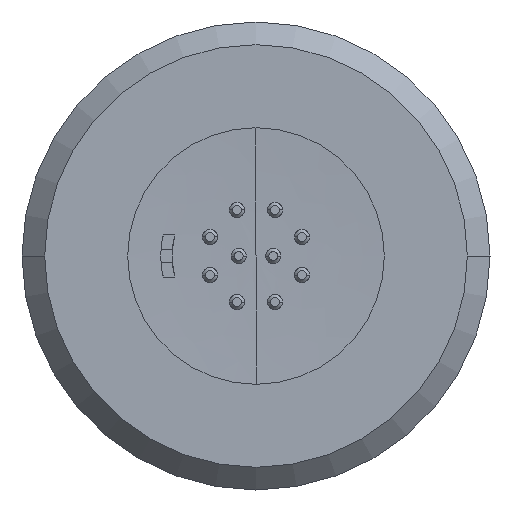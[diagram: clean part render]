
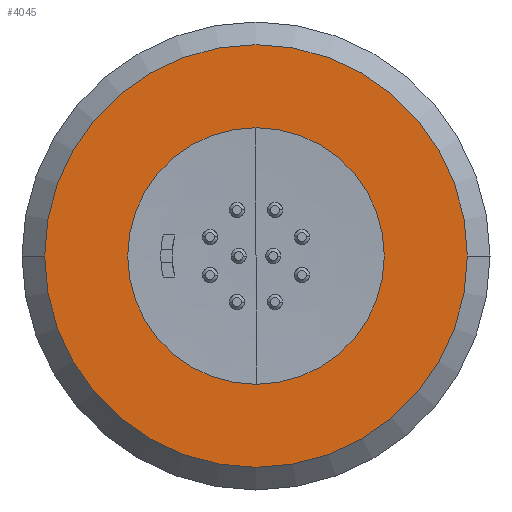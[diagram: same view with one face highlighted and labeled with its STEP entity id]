
A CAD part, left-side view. The second image highlights one B-rep face of the part: STEP entity #4045.
In plain terms, the highlighted planar face has unit normal (-1, 0, 0).
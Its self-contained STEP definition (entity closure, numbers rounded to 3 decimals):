
#522=CARTESIAN_POINT('',(-15.5,0.,0.));
#523=DIRECTION('',(1.,0.,0.));
#524=DIRECTION('',(0.,-1.,0.));
#525=AXIS2_PLACEMENT_3D('',#522,#523,#524);
#527=CARTESIAN_POINT('',(-15.5,0.,0.));
#528=DIRECTION('',(1.,0.,0.));
#529=DIRECTION('',(0.,0.,-1.));
#530=AXIS2_PLACEMENT_3D('',#527,#528,#529);
#532=CARTESIAN_POINT('',(-15.5,0.,0.));
#533=DIRECTION('',(1.,0.,0.));
#534=DIRECTION('',(0.,1.,0.));
#535=AXIS2_PLACEMENT_3D('',#532,#533,#534);
#537=CARTESIAN_POINT('',(-15.5,0.,0.));
#538=DIRECTION('',(1.,0.,0.));
#539=DIRECTION('',(0.,0.,1.));
#540=AXIS2_PLACEMENT_3D('',#537,#538,#539);
#542=CARTESIAN_POINT('',(-15.5,0.,0.));
#543=DIRECTION('',(-1.,0.,0.));
#544=DIRECTION('',(0.,-1.,0.));
#545=AXIS2_PLACEMENT_3D('',#542,#543,#544);
#547=CARTESIAN_POINT('',(-15.5,0.,0.));
#548=DIRECTION('',(-1.,0.,0.));
#549=DIRECTION('',(0.,1.,0.));
#550=AXIS2_PLACEMENT_3D('',#547,#548,#549);
#2979=CARTESIAN_POINT('',(-15.5,0.,7.));
#2980=CARTESIAN_POINT('',(-15.5,-7.,0.));
#2981=VERTEX_POINT('',#2979);
#2982=VERTEX_POINT('',#2980);
#2983=CARTESIAN_POINT('',(-15.5,7.,0.));
#2984=VERTEX_POINT('',#2983);
#2985=CARTESIAN_POINT('',(-15.5,0.,-7.));
#2986=VERTEX_POINT('',#2985);
#2987=CARTESIAN_POINT('',(-15.5,-4.25,0.));
#2988=CARTESIAN_POINT('',(-15.5,4.25,0.));
#2989=VERTEX_POINT('',#2987);
#2990=VERTEX_POINT('',#2988);
#4026=CARTESIAN_POINT('',(-15.5,0.,0.));
#4027=DIRECTION('',(1.,0.,0.));
#4028=DIRECTION('',(0.,-1.,0.));
#4029=AXIS2_PLACEMENT_3D('',#4026,#4027,#4028);
#4030=PLANE('',#4029);
#4032=ORIENTED_EDGE('',*,*,#4031,.T.);
#4034=ORIENTED_EDGE('',*,*,#4033,.T.);
#4035=ORIENTED_EDGE('',*,*,#4008,.T.);
#4036=ORIENTED_EDGE('',*,*,#4006,.T.);
#4037=EDGE_LOOP('',(#4032,#4034,#4035,#4036));
#4038=FACE_OUTER_BOUND('',#4037,.F.);
#4040=ORIENTED_EDGE('',*,*,#4039,.T.);
#4042=ORIENTED_EDGE('',*,*,#4041,.T.);
#4043=EDGE_LOOP('',(#4040,#4042));
#4044=FACE_BOUND('',#4043,.F.);
#526=CIRCLE('',#525,7.);
#531=CIRCLE('',#530,7.);
#536=CIRCLE('',#535,7.);
#541=CIRCLE('',#540,7.);
#546=CIRCLE('',#545,4.25);
#551=CIRCLE('',#550,4.25);
#4006=EDGE_CURVE('',#2981,#2982,#541,.T.);
#4008=EDGE_CURVE('',#2984,#2981,#536,.T.);
#4031=EDGE_CURVE('',#2982,#2986,#526,.T.);
#4033=EDGE_CURVE('',#2986,#2984,#531,.T.);
#4039=EDGE_CURVE('',#2989,#2990,#546,.T.);
#4041=EDGE_CURVE('',#2990,#2989,#551,.T.);
#4045=ADVANCED_FACE('',(#4038,#4044),#4030,.F.);
